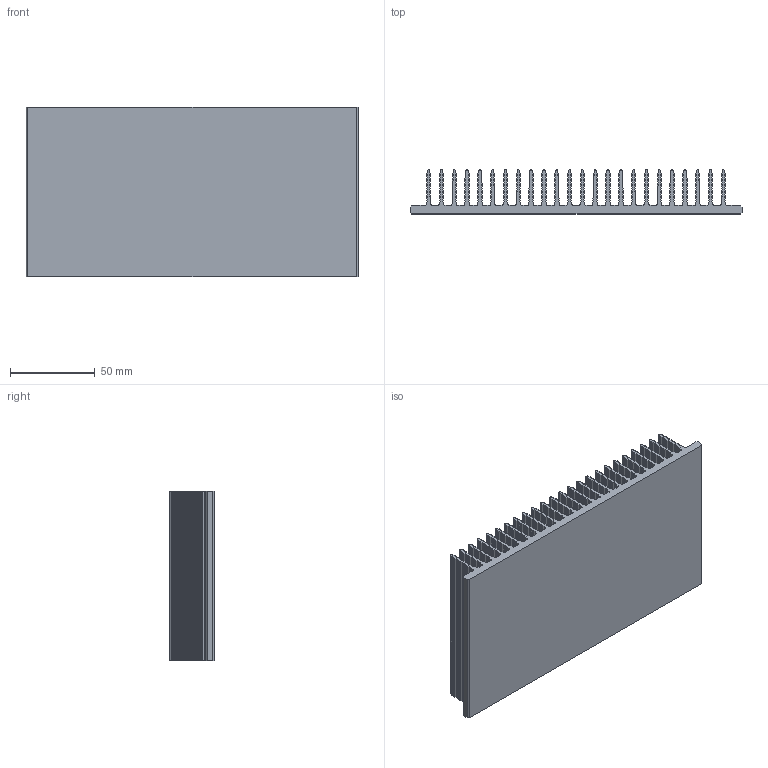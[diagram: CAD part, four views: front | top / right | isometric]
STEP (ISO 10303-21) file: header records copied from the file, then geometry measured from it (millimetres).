
FILE_DESCRIPTION (( 'STEP AP214' ), '1' );
FILE_NAME ('PR387.STEP', '2013-06-12T17:40:37', ( '' ), ( '' ), 'SwSTEP 2.0', 'SolidWorks 2013', '' );
FILE_SCHEMA (( 'AUTOMOTIVE_DESIGN' ));
Length unit declared in the file: millimetre
Products named in the file (1): PR387
Bounding box: 196 x 26 x 100 mm (x, y, z)
Volume: 201047.9 mm3; surface area: 173767 mm2
Topology: 1 solids, 1 shells, 1882 faces, 5640 edges, 3760 vertices
Faces by surface type: plane 1810, cylinder 72
Entity records: 62242 total; most frequent: CARTESIAN_POINT 11283, ORIENTED_EDGE 11280, DIRECTION 9550, EDGE_CURVE 5640, LINE 5496, VECTOR 5496, VERTEX_POINT 3760, AXIS2_PLACEMENT_3D 2027
